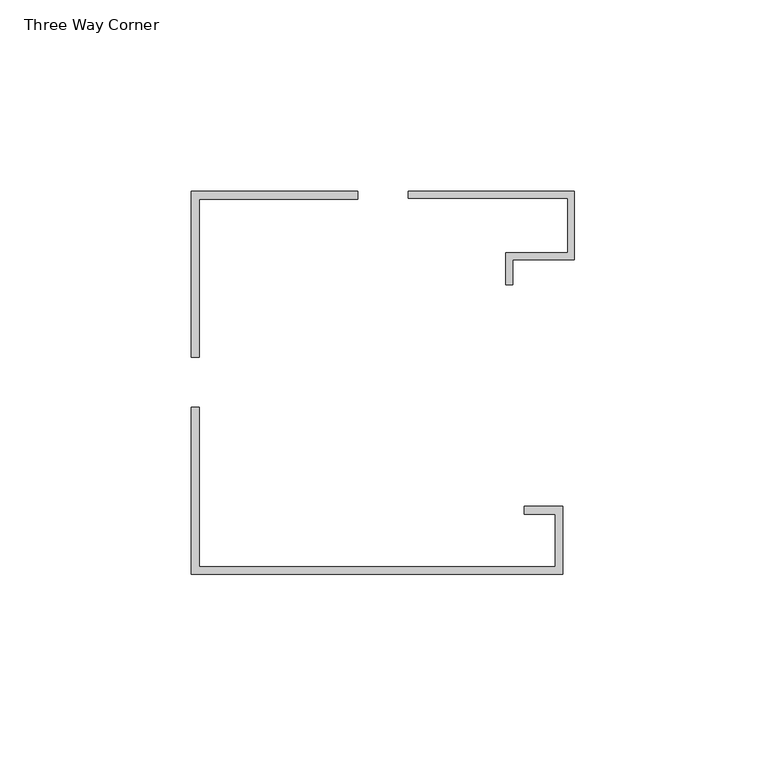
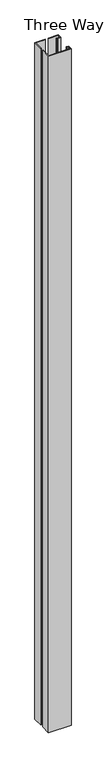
"""IFC4 building model written with IfcOpenShell, lengths in millimetres: proxy geometry, Connection-Corner-Teknion-OptosLP-Three_Way_FZCY3E_S : Three Way Corner."""

from ifc_helpers import new_model, si_unit, origin, origin_with_axes, place, context, project, spatial, polyline, outline, extrude, source, transform, mapped, element, save


def three_way_corner_18708fa8(model_context):
    return source(origin(), model_context, "Body", "SweptSolid", [
        extrude(outline(polyline([(47.3892022, -31.9785998), (47.3892022, -49.8094), (-49.610797, -49.8094), (-49.610797, -6.1767964), (-47.5787964, -6.1767964), (-47.5787964, -47.7773994), (45.3572053, -47.7773994), (45.3572053, -34.0613984), (37.229203, -34.0613984), (37.229203, -31.9785998), (47.3892022, -31.9785998)])), origin_with_axes(), (0.0, 0.0, 1.0), 3048.0),
        extrude(outline(polyline([(32.4822038, 25.8064996), (32.4822038, 34.1885015), (48.6112054, 34.1885015), (48.6112054, 48.4125018), (6.955204, 48.4125018), (6.955204, 50.1905009), (50.3892045, 50.1905009), (50.3892045, 32.4104987), (34.2602026, 32.4104987), (34.2602026, 25.8064996), (32.4822038, 25.8064996)])), origin_with_axes(), (0.0, 0.0, 1.0), 3048.0),
        extrude(outline(polyline([(-49.610797, 50.1904003), (-6.1767964, 50.1904003), (-6.1767964, 48.2281242), (-47.5787964, 48.2281242), (-47.5787964, 6.955204), (-49.610797, 6.955204), (-49.610797, 50.1904003)])), origin_with_axes(), (0.0, 0.0, 1.0), 3048.0),
    ])


if __name__ == "__main__":
    model = new_model("IFC4")
    model_context = context("Model", 3, world=origin())
    ifc_project = project(units=[si_unit("LENGTHUNIT", "METRE", prefix="MILLI")], contexts=[model_context])
    site = spatial("IfcSite", under=ifc_project)
    building = spatial("IfcBuilding", under=site)
    placement = place(None, origin())
    three_way_corner_shape = three_way_corner_18708fa8(model_context)
    element("IfcBuildingElementProxy", 1, Name="Connection-Corner-Teknion-OptosLP-Three_Way_FZCY3E_S : Three Way Corner", ObjectType="Connection-Corner-Teknion-OptosLP-Three_Way_FZCY3E_S : Three Way Corner", at=placement, inside=building, context=model_context, shape_type="MappedRepresentation", body=[
        mapped(three_way_corner_shape, transform((0.0, 0.0, 0.0), x_axis=(1.0, 0.0, 0.0), y_axis=(0.0, 1.0, 0.0), z_axis=(0.0, 0.0, 1.0))),
    ])
    save(model, "model.ifc")
